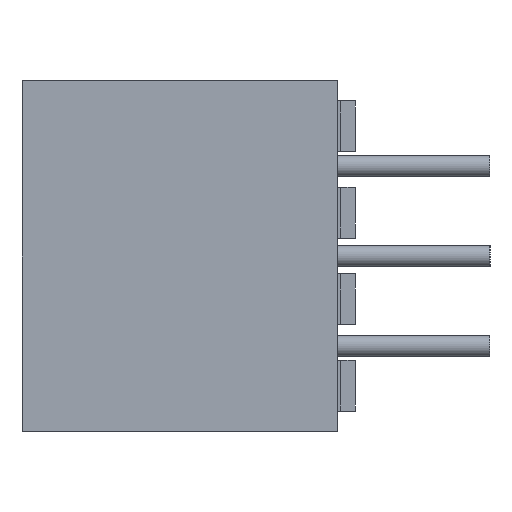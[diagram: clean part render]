
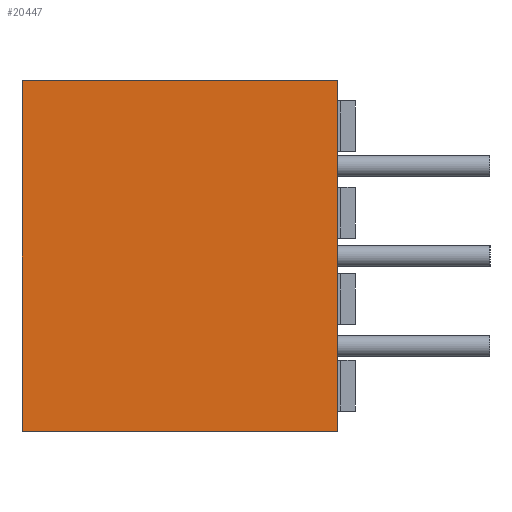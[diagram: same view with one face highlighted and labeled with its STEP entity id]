
A CAD part, left-side view. The second image highlights one B-rep face of the part: STEP entity #20447.
In plain terms, the highlighted planar face has unit normal (-1, 0, 0).
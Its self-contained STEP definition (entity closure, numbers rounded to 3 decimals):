
#3759 = EDGE_CURVE ( 'NONE', #3762, #3763, #29725, .T. ) ;
#3762 = VERTEX_POINT ( 'NONE', #29721 ) ;
#3763 = VERTEX_POINT ( 'NONE', #29771 ) ;
#4945 = DIRECTION ( 'NONE',  ( 0., -1., 0. ) ) ;
#4946 = VECTOR ( 'NONE', #4945, 1000. ) ;
#4947 = CARTESIAN_POINT ( 'NONE',  ( -14.5, 0.011, 4.95 ) ) ;
#4948 = LINE ( 'NONE', #4947, #4946 ) ;
#4950 = DIRECTION ( 'NONE',  ( 0., -1., 0. ) ) ;
#4951 = DIRECTION ( 'NONE',  ( -1., 0., 0. ) ) ;
#4952 = CARTESIAN_POINT ( 'NONE',  ( -14.5, 0., 4.95 ) ) ;
#4953 = AXIS2_PLACEMENT_3D ( 'NONE', #4952, #4951, #4950 ) ;
#4954 = PLANE ( 'NONE',  #4953 ) ;
#4955 = FACE_OUTER_BOUND ( 'NONE', #20448, .T. ) ;
#5680 = DIRECTION ( 'NONE',  ( 0., -1., 0. ) ) ;
#5681 = VECTOR ( 'NONE', #5680, 1000. ) ;
#5682 = CARTESIAN_POINT ( 'NONE',  ( -14.5, 0.004, -4.95 ) ) ;
#5683 = LINE ( 'NONE', #5682, #5681 ) ;
#6966 = CARTESIAN_POINT ( 'NONE',  ( -14.5, 0., 4.95 ) ) ;
#6967 = CARTESIAN_POINT ( 'NONE',  ( -14.5, 0., -4.95 ) ) ;
#7115 = DIRECTION ( 'NONE',  ( 0., 0., 1. ) ) ;
#7116 = VECTOR ( 'NONE', #7115, 1000. ) ;
#7117 = CARTESIAN_POINT ( 'NONE',  ( -14.5, 0., 4.95 ) ) ;
#7123 = LINE ( 'NONE', #7117, #7116 ) ;
#20447 = ADVANCED_FACE ( 'NONE', ( #4955 ), #4954, .T. ) ;
#20448 = EDGE_LOOP ( 'NONE', ( #20449, #20450, #20454, #33041 ) ) ;
#20449 = ORIENTED_EDGE ( 'NONE', *, *, #21695, .T. ) ;
#20450 = ORIENTED_EDGE ( 'NONE', *, *, #20452, .F. ) ;
#20452 = EDGE_CURVE ( 'NONE', #3763, #21505, #4948, .T. ) ;
#20454 = ORIENTED_EDGE ( 'NONE', *, *, #3759, .F. ) ;
#20857 = EDGE_CURVE ( 'NONE', #3762, #21501, #5683, .T. ) ;
#21501 = VERTEX_POINT ( 'NONE', #6967 ) ;
#21505 = VERTEX_POINT ( 'NONE', #6966 ) ;
#21695 = EDGE_CURVE ( 'NONE', #21501, #21505, #7123, .T. ) ;
#29721 = CARTESIAN_POINT ( 'NONE',  ( -14.497, 8.89, -4.947 ) ) ;
#29722 = DIRECTION ( 'NONE',  ( 0., 0., 1. ) ) ;
#29723 = VECTOR ( 'NONE', #29722, 1000. ) ;
#29724 = CARTESIAN_POINT ( 'NONE',  ( -14.497, 8.89, 4.95 ) ) ;
#29725 = LINE ( 'NONE', #29724, #29723 ) ;
#29771 = CARTESIAN_POINT ( 'NONE',  ( -14.497, 8.89, 4.947 ) ) ;
#33041 = ORIENTED_EDGE ( 'NONE', *, *, #20857, .T. ) ;
